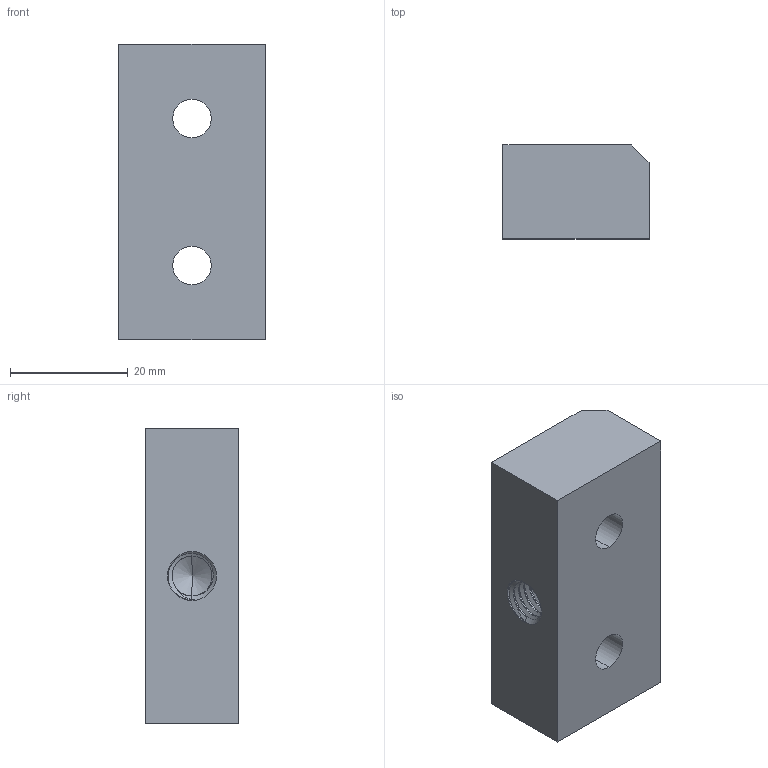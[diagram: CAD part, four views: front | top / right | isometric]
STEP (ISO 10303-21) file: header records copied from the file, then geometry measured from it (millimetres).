
FILE_DESCRIPTION (( 'STEP AP214' ), '1' );
FILE_NAME ('7975.STEP', '2026-08-18T06:07:29', ( '' ), ( '' ), 'SwSTEP 2.0', 'SolidWorks 2022', '' );
FILE_SCHEMA (( 'AUTOMOTIVE_DESIGN' ));
Length unit declared in the file: millimetre
Products named in the file (1): 7975
Bounding box: 24.82 x 15.9 x 50.25 mm (x, y, z)
Volume: 16890.1 mm3; surface area: 6096.4 mm2
Topology: 1 solids, 1 shells, 52 faces, 139 edges, 90 vertices
Faces by surface type: cylinder 32, plane 9, bspline 6, cone 5
Entity records: 4534 total; most frequent: CARTESIAN_POINT 3392, ORIENTED_EDGE 274, DIRECTION 181, EDGE_CURVE 137, VERTEX_POINT 90, AXIS2_PLACEMENT_3D 65, EDGE_LOOP 59, ADVANCED_FACE 52
